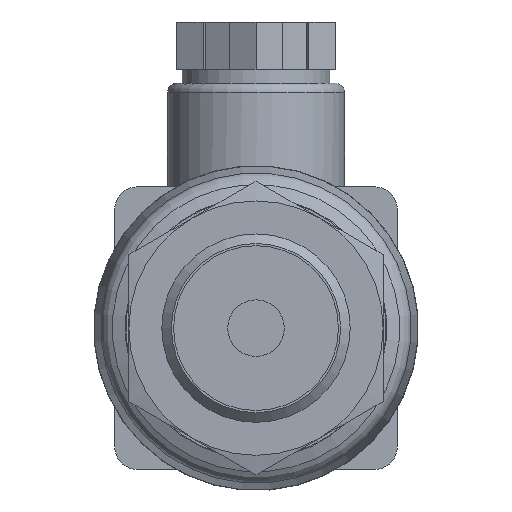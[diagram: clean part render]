
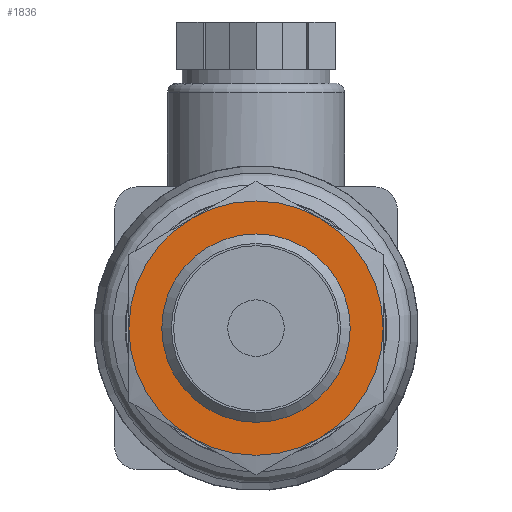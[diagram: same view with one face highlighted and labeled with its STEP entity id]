
A CAD part, left-side view. The second image highlights one B-rep face of the part: STEP entity #1836.
In plain terms, the highlighted planar face has unit normal (-1, 0, 0).
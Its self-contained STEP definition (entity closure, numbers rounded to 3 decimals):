
#274=FACE_OUTER_BOUND('',#719,.T.);
#606=FACE_BOUND('',#720,.T.);
#719=EDGE_LOOP('',(#1590,#1591,#1592,#1593,#1594,#1595));
#720=EDGE_LOOP('',(#1596));
#804=CIRCLE('',#2000,9.85);
#806=CIRCLE('',#2004,13.5);
#807=CIRCLE('',#2005,13.5);
#808=CIRCLE('',#2006,13.5);
#809=CIRCLE('',#2007,13.5);
#810=CIRCLE('',#2008,13.5);
#811=CIRCLE('',#2009,13.5);
#947=VERTEX_POINT('',#2958);
#949=VERTEX_POINT('',#2964);
#950=VERTEX_POINT('',#2965);
#951=VERTEX_POINT('',#2967);
#952=VERTEX_POINT('',#2969);
#953=VERTEX_POINT('',#2971);
#954=VERTEX_POINT('',#2973);
#1166=EDGE_CURVE('',#947,#947,#804,.T.);
#1168=EDGE_CURVE('',#949,#950,#806,.T.);
#1169=EDGE_CURVE('',#950,#951,#807,.T.);
#1170=EDGE_CURVE('',#951,#952,#808,.T.);
#1171=EDGE_CURVE('',#952,#953,#809,.T.);
#1172=EDGE_CURVE('',#953,#954,#810,.T.);
#1173=EDGE_CURVE('',#954,#949,#811,.T.);
#1590=ORIENTED_EDGE('',*,*,#1168,.T.);
#1591=ORIENTED_EDGE('',*,*,#1169,.T.);
#1592=ORIENTED_EDGE('',*,*,#1170,.T.);
#1593=ORIENTED_EDGE('',*,*,#1171,.T.);
#1594=ORIENTED_EDGE('',*,*,#1172,.T.);
#1595=ORIENTED_EDGE('',*,*,#1173,.T.);
#1596=ORIENTED_EDGE('',*,*,#1166,.F.);
#1742=PLANE('',#2003);
#1836=ADVANCED_FACE('',(#274,#606),#1742,.T.);
#2000=AXIS2_PLACEMENT_3D('',#2959,#2453,#2454);
#2003=AXIS2_PLACEMENT_3D('',#2963,#2459,#2460);
#2004=AXIS2_PLACEMENT_3D('',#2966,#2461,#2462);
#2005=AXIS2_PLACEMENT_3D('',#2968,#2463,#2464);
#2006=AXIS2_PLACEMENT_3D('',#2970,#2465,#2466);
#2007=AXIS2_PLACEMENT_3D('',#2972,#2467,#2468);
#2008=AXIS2_PLACEMENT_3D('',#2974,#2469,#2470);
#2009=AXIS2_PLACEMENT_3D('',#2975,#2471,#2472);
#2453=DIRECTION('center_axis',(-1.,0.,0.));
#2454=DIRECTION('ref_axis',(0.,0.,
-1.));
#2459=DIRECTION('center_axis',(-1.,0.,0.));
#2460=DIRECTION('ref_axis',(0.,-1.,0.));
#2461=DIRECTION('center_axis',(-1.,0.,0.));
#2462=DIRECTION('ref_axis',(0.,0.,
1.));
#2463=DIRECTION('center_axis',(-1.,0.,0.));
#2464=DIRECTION('ref_axis',(0.,0.,
1.));
#2465=DIRECTION('center_axis',(-1.,0.,0.));
#2466=DIRECTION('ref_axis',(0.,0.,
1.));
#2467=DIRECTION('center_axis',(-1.,0.,0.));
#2468=DIRECTION('ref_axis',(0.,0.,
1.));
#2469=DIRECTION('center_axis',(-1.,0.,0.));
#2470=DIRECTION('ref_axis',(0.,0.,
1.));
#2471=DIRECTION('center_axis',(-1.,0.,0.));
#2472=DIRECTION('ref_axis',(0.,0.,
1.));
#2958=CARTESIAN_POINT('',(-10.,0.,9.85));
#2959=CARTESIAN_POINT('Origin',(-10.,0.,0.));
#2963=CARTESIAN_POINT('Origin',(-10.,0.,0.));
#2964=CARTESIAN_POINT('',(-10.,-6.75,11.691));
#2965=CARTESIAN_POINT('',(-10.,6.75,11.691));
#2966=CARTESIAN_POINT('Origin',(-10.,0.,0.));
#2967=CARTESIAN_POINT('',(-10.,13.5,0.));
#2968=CARTESIAN_POINT('Origin',(-10.,0.,0.));
#2969=CARTESIAN_POINT('',(-10.,6.75,-11.691));
#2970=CARTESIAN_POINT('Origin',(-10.,0.,0.));
#2971=CARTESIAN_POINT('',(-10.,-6.75,-11.691));
#2972=CARTESIAN_POINT('Origin',(-10.,0.,0.));
#2973=CARTESIAN_POINT('',(-10.,-13.5,0.));
#2974=CARTESIAN_POINT('Origin',(-10.,0.,0.));
#2975=CARTESIAN_POINT('Origin',(-10.,0.,0.));
